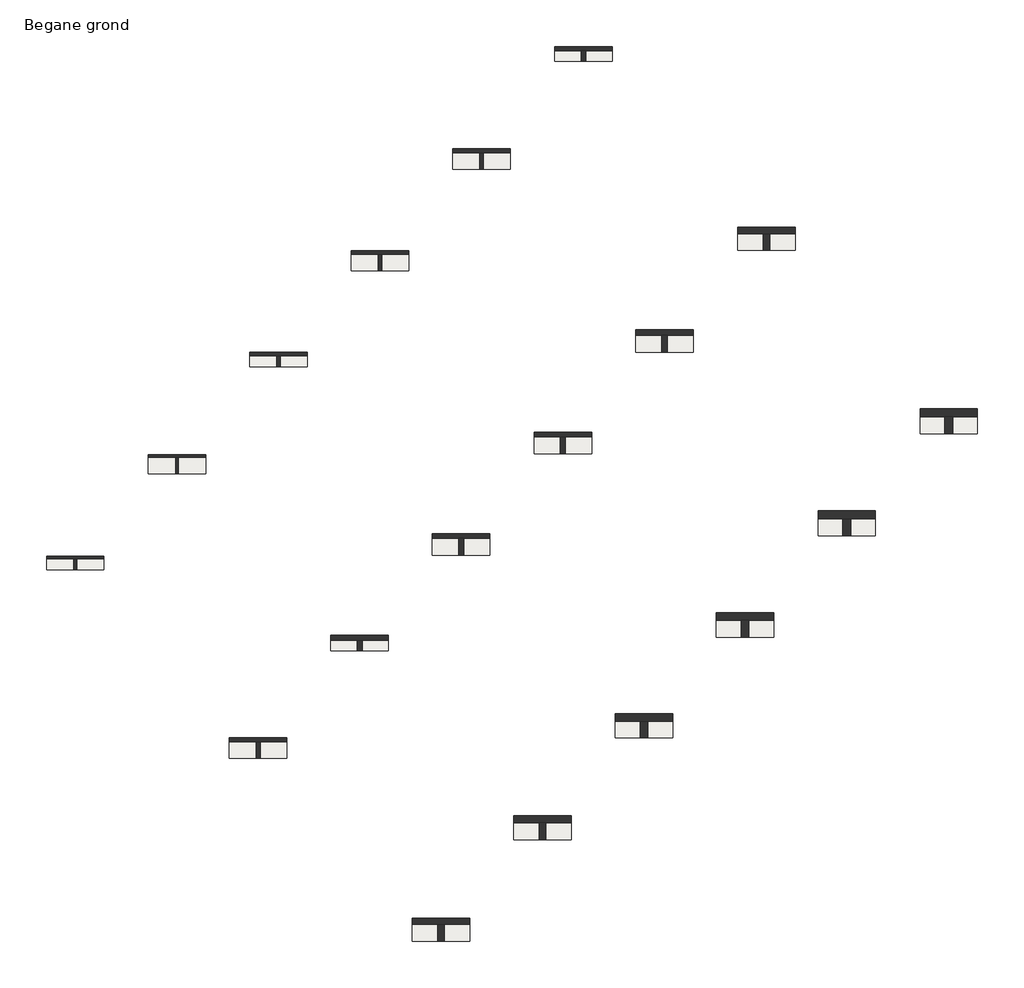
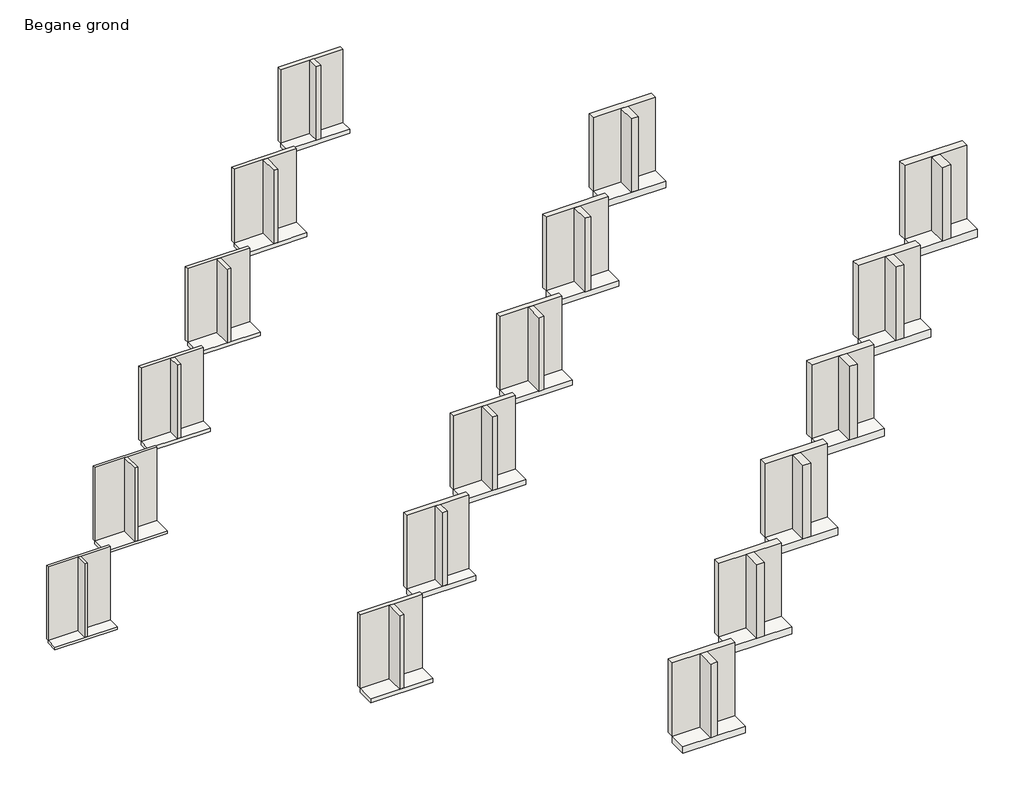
# One storey: 36 walls, 18 slabs.
"""IFC4 building model written with IfcOpenShell, lengths in millimetres."""

from ifc_helpers import new_model, si_unit, frame, origin, origin_with_axes, place, context, project, spatial, polyline, outline, extrude, element, save

model = new_model("IFC4")

# Units and contexts
model_context = context("Model", 3, world=origin())
ifc_project = project(units=[si_unit("LENGTHUNIT", "METRE", prefix="MILLI")], contexts=[model_context])

# Site, building, storey
site = spatial("IfcSite", under=ifc_project)
building = spatial("IfcBuilding", under=site)
storey = spatial("IfcBuildingStorey", under=building, Name="Begane grond", Elevation=0.0)

# Slabs
placement = place(None, origin())
element("IfcSlab", 1, ObjectType="NLRS_23_FL_Naturoll 037_90x380x8200mm", at=placement, inside=storey, context=model_context, shape_type="SweptSolid", body=[
    extrude(outline(polyline([(-8839.8806952, 1271.6712629), (-8839.8806952, 891.6712629), (-10839.8806952, 891.6712629), (-10839.8806952, 1271.6712629), (-8839.8806952, 1271.6712629)])), frame((0.0, 0.0, -90.0), z_axis=(0.0, 0.0, 1.0), x_axis=(1.0, 0.0, 0.0)), (0.0, 0.0, 1.0), 90.0),
])
element("IfcSlab", 2, ObjectType="NLRS_23_FL_Naturoll 037_90x580x8200mm", at=placement, inside=storey, context=model_context, shape_type="SweptSolid", body=[
    extrude(outline(polyline([(-5304.3467893, 4807.2051688), (-5304.3467893, 4227.2051688), (-7304.3467893, 4227.2051688), (-7304.3467893, 4807.2051688), (-5304.3467893, 4807.2051688)])), frame((0.0, 0.0, -90.0), z_axis=(0.0, 0.0, 1.0), x_axis=(1.0, 0.0, 0.0)), (0.0, 0.0, 1.0), 90.0),
])
element("IfcSlab", 3, ObjectType="NLRS_23_FL_Naturoll 037_120x380x6500mm", at=placement, inside=storey, context=model_context, shape_type="SweptSolid", body=[
    extrude(outline(polyline([(-1768.8128833, 8342.7390748), (-1768.8128833, 7962.7390748), (-3768.8128833, 7962.7390748), (-3768.8128833, 8342.7390748), (-1768.8128833, 8342.7390748)])), frame((0.0, 0.0, -120.0), z_axis=(0.0, 0.0, 1.0), x_axis=(1.0, 0.0, 0.0)), (0.0, 0.0, 1.0), 120.0),
])
element("IfcSlab", 4, ObjectType="NLRS_23_FL_Naturoll 037_120x580x6500mm", at=placement, inside=storey, context=model_context, shape_type="SweptSolid", body=[
    extrude(outline(polyline([(1766.7210226, 11878.2729807), (1766.7210226, 11298.2729807), (-233.2789774, 11298.2729807), (-233.2789774, 11878.2729807), (1766.7210226, 11878.2729807)])), frame((0.0, 0.0, -120.0), z_axis=(0.0, 0.0, 1.0), x_axis=(1.0, 0.0, 0.0)), (0.0, 0.0, 1.0), 120.0),
])
element("IfcSlab", 5, ObjectType="NLRS_23_FL_Naturoll 037_135x590x5800mm", at=placement, inside=storey, context=model_context, shape_type="SweptSolid", body=[
    extrude(outline(polyline([(5302.2549285, 15413.8068866), (5302.2549285, 14823.8068866), (3302.2549285, 14823.8068866), (3302.2549285, 15413.8068866), (5302.2549285, 15413.8068866)])), frame((0.0, 0.0, -135.0), z_axis=(0.0, 0.0, 1.0), x_axis=(1.0, 0.0, 0.0)), (0.0, 0.0, 1.0), 135.0),
])
element("IfcSlab", 6, ObjectType="NLRS_23_FL_Naturoll 037_140x580x5600mm", at=placement, inside=storey, context=model_context, shape_type="SweptSolid", body=[
    extrude(outline(polyline([(-2475.9196645, -5092.2897678), (-2475.9196645, -5672.2897678), (-4475.9196645, -5672.2897678), (-4475.9196645, -5092.2897678), (-2475.9196645, -5092.2897678)])), frame((0.0, 0.0, -140.0), z_axis=(0.0, 0.0, 1.0), x_axis=(1.0, 0.0, 0.0)), (0.0, 0.0, 1.0), 140.0),
])
element("IfcSlab", 7, ObjectType="NLRS_23_FL_Naturoll 037_170x380x4600mm", at=placement, inside=storey, context=model_context, shape_type="SweptSolid", body=[
    extrude(outline(polyline([(1059.6142414, -1556.7558618), (1059.6142414, -1936.7558618), (-940.3857586, -1936.7558618), (-940.3857586, -1556.7558618), (1059.6142414, -1556.7558618)])), frame((0.0, 0.0, -170.0), z_axis=(0.0, 0.0, 1.0), x_axis=(1.0, 0.0, 0.0)), (0.0, 0.0, 1.0), 170.0),
])
element("IfcSlab", 8, ObjectType="NLRS_23_FL_Naturoll 037_170x580x4600mm", at=placement, inside=storey, context=model_context, shape_type="SweptSolid", body=[
    extrude(outline(polyline([(4595.1481473, 1978.7780441), (4595.1481473, 1398.7780441), (2595.1481473, 1398.7780441), (2595.1481473, 1978.7780441), (4595.1481473, 1978.7780441)])), frame((0.0, 0.0, -170.0), z_axis=(0.0, 0.0, 1.0), x_axis=(1.0, 0.0, 0.0)), (0.0, 0.0, 1.0), 170.0),
])
element("IfcSlab", 9, ObjectType="NLRS_23_FL_Naturoll 037_170x590x4600mm", at=placement, inside=storey, context=model_context, shape_type="SweptSolid", body=[
    extrude(outline(polyline([(8130.6820533, 5514.31195), (8130.6820533, 4924.31195), (6130.6820533, 4924.31195), (6130.6820533, 5514.31195), (8130.6820533, 5514.31195)])), frame((0.0, 0.0, -170.0), z_axis=(0.0, 0.0, 1.0), x_axis=(1.0, 0.0, 0.0)), (0.0, 0.0, 1.0), 170.0),
])
element("IfcSlab", 10, ObjectType="NLRS_23_FL_Naturoll 037_190x580x4100mm", at=placement, inside=storey, context=model_context, shape_type="SweptSolid", body=[
    extrude(outline(polyline([(11666.2159592, 9049.845856), (11666.2159592, 8469.845856), (9666.2159592, 8469.845856), (9666.2159592, 9049.845856), (11666.2159592, 9049.845856)])), frame((0.0, 0.0, -190.0), z_axis=(0.0, 0.0, 1.0), x_axis=(1.0, 0.0, 0.0)), (0.0, 0.0, 1.0), 190.0),
])
element("IfcSlab", 11, ObjectType="NLRS_23_FL_Naturoll 037_220x580x3500mm", at=placement, inside=storey, context=model_context, shape_type="SweptSolid", body=[
    extrude(outline(polyline([(15219.253694, 12587.1969103), (15219.253694, 12007.1969103), (13219.253694, 12007.1969103), (13219.253694, 12587.1969103), (15219.253694, 12587.1969103)])), frame((0.0, 0.0, -220.0), z_axis=(0.0, 0.0, 1.0), x_axis=(1.0, 0.0, 0.0)), (0.0, 0.0, 1.0), 220.0),
])
element("IfcSlab", 12, ObjectType="NLRS_23_FL_Naturoll 037_220x590x3500mm", at=placement, inside=storey, context=model_context, shape_type="SweptSolid", body=[
    extrude(outline(polyline([(3887.7504273, -11456.5417373), (3887.7504273, -12046.5417373), (1887.7504273, -12046.5417373), (1887.7504273, -11456.5417373), (3887.7504273, -11456.5417373)])), frame((0.0, 0.0, -220.0), z_axis=(0.0, 0.0, 1.0), x_axis=(1.0, 0.0, 0.0)), (0.0, 0.0, 1.0), 220.0),
])
element("IfcSlab", 13, ObjectType="NLRS_23_FL_Naturoll 037_240x590x3250mm", at=placement, inside=storey, context=model_context, shape_type="SweptSolid", body=[
    extrude(outline(polyline([(7423.2843332, -7921.0078314), (7423.2843332, -8511.0078314), (5423.2843332, -8511.0078314), (5423.2843332, -7921.0078314), (7423.2843332, -7921.0078314)])), frame((0.0, 0.0, -240.0), z_axis=(0.0, 0.0, 1.0), x_axis=(1.0, 0.0, 0.0)), (0.0, 0.0, 1.0), 240.0),
])
element("IfcSlab", 14, ObjectType="NLRS_23_FL_Naturoll 037_260x580x3000mm", at=placement, inside=storey, context=model_context, shape_type="SweptSolid", body=[
    extrude(outline(polyline([(10958.8182392, -4385.4739254), (10958.8182392, -4965.4739254), (8958.8182392, -4965.4739254), (8958.8182392, -4385.4739254), (10958.8182392, -4385.4739254)])), frame((0.0, 0.0, -260.0), z_axis=(0.0, 0.0, 1.0), x_axis=(1.0, 0.0, 0.0)), (0.0, 0.0, 1.0), 260.0),
])
element("IfcSlab", 15, ObjectType="NLRS_23_FL_Naturoll 037_270x590x3000mm", at=placement, inside=storey, context=model_context, shape_type="SweptSolid", body=[
    extrude(outline(polyline([(21565.419957, 6221.1277924), (21565.419957, 5631.1277924), (19565.419957, 5631.1277924), (19565.419957, 6221.1277924), (21565.419957, 6221.1277924)])), frame((0.0, 0.0, -270.0), z_axis=(0.0, 0.0, 1.0), x_axis=(1.0, 0.0, 0.0)), (0.0, 0.0, 1.0), 270.0),
])
element("IfcSlab", 16, ObjectType="NLRS_23_FL_Naturoll 037_140x380x5600mm", at=placement, inside=storey, context=model_context, shape_type="SweptSolid", body=[
    extrude(outline(polyline([(8851.9309701, 18963.4829282), (8851.9309701, 18583.4829282), (6851.9309701, 18583.4829282), (6851.9309701, 18963.4829282), (8851.9309701, 18963.4829282)])), frame((0.0, 0.0, -140.0), z_axis=(0.0, 0.0, 1.0), x_axis=(1.0, 0.0, 0.0)), (0.0, 0.0, 1.0), 140.0),
])
element("IfcSlab", 17, ObjectType="NLRS_23_FL_Naturoll 037_265x590x3000mm", at=placement, inside=storey, context=model_context, shape_type="SweptSolid", body=[
    extrude(outline(polyline([(18015.7439154, 2671.4517508), (18015.7439154, 2081.4517508), (16015.7439154, 2081.4517508), (16015.7439154, 2671.4517508), (18015.7439154, 2671.4517508)])), frame((0.0, 0.0, -265.0), z_axis=(0.0, 0.0, 1.0), x_axis=(1.0, 0.0, 0.0)), (0.0, 0.0, 1.0), 265.0),
])
element("IfcSlab", 18, ObjectType="NLRS_23_FL_Naturoll 037_260x590x3000mm", at=placement, inside=storey, context=model_context, shape_type="SweptSolid", body=[
    extrude(outline(polyline([(14480.2100095, -864.0821551), (14480.2100095, -1454.0821551), (12480.2100095, -1454.0821551), (12480.2100095, -864.0821551), (14480.2100095, -864.0821551)])), frame((0.0, 0.0, -260.0), z_axis=(0.0, 0.0, 1.0), x_axis=(1.0, 0.0, 0.0)), (0.0, 0.0, 1.0), 260.0),
])

# Walls
element("IfcWall", 19, ObjectType="NLRS_21_WA_Naturoll 037_90x380x8200mm", at=placement, inside=storey, context=model_context, shape_type="SweptSolid", body=[
    extrude(outline(polyline([(-8839.8806952, 1271.6712629), (-10839.8806952, 1271.6712629), (-10839.8806952, 1361.6712629), (-8839.8806952, 1361.6712629), (-8839.8806952, 1271.6712629)])), origin_with_axes(), (0.0, 0.0, 1.0), 2500.0),
])
element("IfcWall", 20, ObjectType="NLRS_21_WA_Naturoll 037_90x380x8200mm", at=placement, inside=storey, context=model_context, shape_type="SweptSolid", body=[
    extrude(outline(polyline([(-9884.8806952, 891.6712629), (-9884.8806952, 1271.6712629), (-9794.8806952, 1271.6712629), (-9794.8806952, 891.6712629), (-9884.8806952, 891.6712629)])), origin_with_axes(), (0.0, 0.0, 1.0), 2500.0),
])
element("IfcWall", 21, ObjectType="NLRS_21_WA_Naturoll 037_90x580x8200mm", at=placement, inside=storey, context=model_context, shape_type="SweptSolid", body=[
    extrude(outline(polyline([(-5304.3467893, 4807.2051688), (-7304.3467893, 4807.2051688), (-7304.3467893, 4897.2051688), (-5304.3467893, 4897.2051688), (-5304.3467893, 4807.2051688)])), origin_with_axes(), (0.0, 0.0, 1.0), 2500.0),
])
element("IfcWall", 22, ObjectType="NLRS_21_WA_Naturoll 037_90x580x8200mm", at=placement, inside=storey, context=model_context, shape_type="SweptSolid", body=[
    extrude(outline(polyline([(-6349.3467893, 4227.2051688), (-6349.3467893, 4807.2051688), (-6259.3467893, 4807.2051688), (-6259.3467893, 4227.2051688), (-6349.3467893, 4227.2051688)])), origin_with_axes(), (0.0, 0.0, 1.0), 2500.0),
])
element("IfcWall", 23, ObjectType="NLRS_21_WA_Naturoll 037_120x380x6500mm", at=placement, inside=storey, context=model_context, shape_type="SweptSolid", body=[
    extrude(outline(polyline([(-1768.8128833, 8342.7390748), (-3768.8128833, 8342.7390748), (-3768.8128833, 8462.7390748), (-1768.8128833, 8462.7390748), (-1768.8128833, 8342.7390748)])), origin_with_axes(), (0.0, 0.0, 1.0), 2500.0),
])
element("IfcWall", 24, ObjectType="NLRS_21_WA_Naturoll 037_120x380x6500mm", at=placement, inside=storey, context=model_context, shape_type="SweptSolid", body=[
    extrude(outline(polyline([(-2828.8128833, 7962.7390748), (-2828.8128833, 8342.7390748), (-2708.8128833, 8342.7390748), (-2708.8128833, 7962.7390748), (-2828.8128833, 7962.7390748)])), origin_with_axes(), (0.0, 0.0, 1.0), 2500.0),
])
element("IfcWall", 25, ObjectType="NLRS_21_WA_Naturoll 037_120x580x6500mm", at=placement, inside=storey, context=model_context, shape_type="SweptSolid", body=[
    extrude(outline(polyline([(1766.7210226, 11878.2729807), (-233.2789774, 11878.2729807), (-233.2789774, 11998.2729807), (1766.7210226, 11998.2729807), (1766.7210226, 11878.2729807)])), origin_with_axes(), (0.0, 0.0, 1.0), 2500.0),
])
element("IfcWall", 26, ObjectType="NLRS_21_WA_Naturoll 037_120x580x6500mm", at=placement, inside=storey, context=model_context, shape_type="SweptSolid", body=[
    extrude(outline(polyline([(706.7210226, 11298.2729807), (706.7210226, 11878.2729807), (826.7210226, 11878.2729807), (826.7210226, 11298.2729807), (706.7210226, 11298.2729807)])), origin_with_axes(), (0.0, 0.0, 1.0), 2500.0),
])
element("IfcWall", 27, ObjectType="NLRS_21_WA_Naturoll 037_135x590x5800mm", at=placement, inside=storey, context=model_context, shape_type="SweptSolid", body=[
    extrude(outline(polyline([(5302.2549285, 15413.8068866), (3302.2549285, 15413.8068866), (3302.2549285, 15548.8068866), (5302.2549285, 15548.8068866), (5302.2549285, 15413.8068866)])), origin_with_axes(), (0.0, 0.0, 1.0), 2500.0),
])
element("IfcWall", 28, ObjectType="NLRS_21_WA_Naturoll 037_135x590x5800mm", at=placement, inside=storey, context=model_context, shape_type="SweptSolid", body=[
    extrude(outline(polyline([(4234.7549285, 14823.8068866), (4234.7549285, 15413.8068866), (4369.7549285, 15413.8068866), (4369.7549285, 14823.8068866), (4234.7549285, 14823.8068866)])), origin_with_axes(), (0.0, 0.0, 1.0), 2500.0),
])
element("IfcWall", 29, ObjectType="NLRS_21_WA_Naturoll 037_140x580x5600mm", at=placement, inside=storey, context=model_context, shape_type="SweptSolid", body=[
    extrude(outline(polyline([(-2475.9196645, -5092.2897678), (-4475.9196645, -5092.2897678), (-4475.9196645, -4952.2897678), (-2475.9196645, -4952.2897678), (-2475.9196645, -5092.2897678)])), origin_with_axes(), (0.0, 0.0, 1.0), 2500.0),
])
element("IfcWall", 30, ObjectType="NLRS_21_WA_Naturoll 037_140x580x5600mm", at=placement, inside=storey, context=model_context, shape_type="SweptSolid", body=[
    extrude(outline(polyline([(-3545.9196645, -5672.2897678), (-3545.9196645, -5092.2897678), (-3405.9196645, -5092.2897678), (-3405.9196645, -5672.2897678), (-3545.9196645, -5672.2897678)])), origin_with_axes(), (0.0, 0.0, 1.0), 2500.0),
])
element("IfcWall", 31, ObjectType="NLRS_21_WA_Naturoll 037_170x380x4600mm", at=placement, inside=storey, context=model_context, shape_type="SweptSolid", body=[
    extrude(outline(polyline([(1059.6142414, -1556.7558618), (-940.3857586, -1556.7558618), (-940.3857586, -1386.7558618), (1059.6142414, -1386.7558618), (1059.6142414, -1556.7558618)])), origin_with_axes(), (0.0, 0.0, 1.0), 2500.0),
])
element("IfcWall", 32, ObjectType="NLRS_21_WA_Naturoll 037_170x380x4600mm", at=placement, inside=storey, context=model_context, shape_type="SweptSolid", body=[
    extrude(outline(polyline([(-25.3857586, -1936.7558618), (-25.3857586, -1556.7558618), (144.6142414, -1556.7558618), (144.6142414, -1936.7558618), (-25.3857586, -1936.7558618)])), origin_with_axes(), (0.0, 0.0, 1.0), 2500.0),
])
element("IfcWall", 33, ObjectType="NLRS_21_WA_Naturoll 037_170x580x4600mm", at=placement, inside=storey, context=model_context, shape_type="SweptSolid", body=[
    extrude(outline(polyline([(4595.1481473, 1978.7780441), (2595.1481473, 1978.7780441), (2595.1481473, 2148.7780441), (4595.1481473, 2148.7780441), (4595.1481473, 1978.7780441)])), origin_with_axes(), (0.0, 0.0, 1.0), 2500.0),
])
element("IfcWall", 34, ObjectType="NLRS_21_WA_Naturoll 037_170x580x4600mm", at=placement, inside=storey, context=model_context, shape_type="SweptSolid", body=[
    extrude(outline(polyline([(3510.1481473, 1398.7780441), (3510.1481473, 1978.7780441), (3680.1481473, 1978.7780441), (3680.1481473, 1398.7780441), (3510.1481473, 1398.7780441)])), origin_with_axes(), (0.0, 0.0, 1.0), 2500.0),
])
element("IfcWall", 35, ObjectType="NLRS_21_WA_Naturoll 037_170x590x4600mm", at=placement, inside=storey, context=model_context, shape_type="SweptSolid", body=[
    extrude(outline(polyline([(8130.6820533, 5514.31195), (6130.6820533, 5514.31195), (6130.6820533, 5684.31195), (8130.6820533, 5684.31195), (8130.6820533, 5514.31195)])), origin_with_axes(), (0.0, 0.0, 1.0), 2500.0),
])
element("IfcWall", 36, ObjectType="NLRS_21_WA_Naturoll 037_170x590x4600mm", at=placement, inside=storey, context=model_context, shape_type="SweptSolid", body=[
    extrude(outline(polyline([(7045.6820533, 4924.31195), (7045.6820533, 5514.31195), (7215.6820533, 5514.31195), (7215.6820533, 4924.31195), (7045.6820533, 4924.31195)])), origin_with_axes(), (0.0, 0.0, 1.0), 2500.0),
])
element("IfcWall", 37, ObjectType="NLRS_21_WA_Naturoll 037_190x580x4100mm", at=placement, inside=storey, context=model_context, shape_type="SweptSolid", body=[
    extrude(outline(polyline([(11666.2159592, 9049.845856), (9666.2159592, 9049.845856), (9666.2159592, 9239.845856), (11666.2159592, 9239.845856), (11666.2159592, 9049.845856)])), origin_with_axes(), (0.0, 0.0, 1.0), 2500.0),
])
element("IfcWall", 38, ObjectType="NLRS_21_WA_Naturoll 037_190x580x4100mm", at=placement, inside=storey, context=model_context, shape_type="SweptSolid", body=[
    extrude(outline(polyline([(10571.2159592, 8469.845856), (10571.2159592, 9049.845856), (10761.2159592, 9049.845856), (10761.2159592, 8469.845856), (10571.2159592, 8469.845856)])), origin_with_axes(), (0.0, 0.0, 1.0), 2500.0),
])
element("IfcWall", 39, ObjectType="NLRS_21_WA_Naturoll 037_220x580x3500mm", at=placement, inside=storey, context=model_context, shape_type="SweptSolid", body=[
    extrude(outline(polyline([(15219.253694, 12587.1969103), (13219.253694, 12587.1969103), (13219.253694, 12807.1969103), (15219.253694, 12807.1969103), (15219.253694, 12587.1969103)])), origin_with_axes(), (0.0, 0.0, 1.0), 2500.0),
])
element("IfcWall", 40, ObjectType="NLRS_21_WA_Naturoll 037_220x580x3500mm", at=placement, inside=storey, context=model_context, shape_type="SweptSolid", body=[
    extrude(outline(polyline([(14109.253694, 12007.1969103), (14109.253694, 12587.1969103), (14329.253694, 12587.1969103), (14329.253694, 12007.1969103), (14109.253694, 12007.1969103)])), origin_with_axes(), (0.0, 0.0, 1.0), 2500.0),
])
element("IfcWall", 41, ObjectType="NLRS_21_WA_Naturoll 037_220x590x3500mm", at=placement, inside=storey, context=model_context, shape_type="SweptSolid", body=[
    extrude(outline(polyline([(3887.7504273, -11456.5417373), (1887.7504273, -11456.5417373), (1887.7504273, -11236.5417373), (3887.7504273, -11236.5417373), (3887.7504273, -11456.5417373)])), origin_with_axes(), (0.0, 0.0, 1.0), 2500.0),
])
element("IfcWall", 42, ObjectType="NLRS_21_WA_Naturoll 037_220x590x3500mm", at=placement, inside=storey, context=model_context, shape_type="SweptSolid", body=[
    extrude(outline(polyline([(2777.7504273, -12046.5417373), (2777.7504273, -11456.5417373), (2997.7504273, -11456.5417373), (2997.7504273, -12046.5417373), (2777.7504273, -12046.5417373)])), origin_with_axes(), (0.0, 0.0, 1.0), 2500.0),
])
element("IfcWall", 43, ObjectType="NLRS_21_WA_Naturoll 037_240x590x3250mm", at=placement, inside=storey, context=model_context, shape_type="SweptSolid", body=[
    extrude(outline(polyline([(7423.2843332, -7921.0078314), (5423.2843332, -7921.0078314), (5423.2843332, -7681.0078314), (7423.2843332, -7681.0078314), (7423.2843332, -7921.0078314)])), origin_with_axes(), (0.0, 0.0, 1.0), 2500.0),
])
element("IfcWall", 44, ObjectType="NLRS_21_WA_Naturoll 037_240x590x3250mm", at=placement, inside=storey, context=model_context, shape_type="SweptSolid", body=[
    extrude(outline(polyline([(6303.2843332, -8511.0078314), (6303.2843332, -7921.0078314), (6543.2843332, -7921.0078314), (6543.2843332, -8511.0078314), (6303.2843332, -8511.0078314)])), origin_with_axes(), (0.0, 0.0, 1.0), 2500.0),
])
element("IfcWall", 45, ObjectType="NLRS_21_WA_Naturoll 037_260x580x3000mm", at=placement, inside=storey, context=model_context, shape_type="SweptSolid", body=[
    extrude(outline(polyline([(10958.8182392, -4385.4739254), (8958.8182392, -4385.4739254), (8958.8182392, -4125.4739254), (10958.8182392, -4125.4739254), (10958.8182392, -4385.4739254)])), origin_with_axes(), (0.0, 0.0, 1.0), 2500.0),
])
element("IfcWall", 46, ObjectType="NLRS_21_WA_Naturoll 037_260x580x3000mm", at=placement, inside=storey, context=model_context, shape_type="SweptSolid", body=[
    extrude(outline(polyline([(9828.8182392, -4965.4739254), (9828.8182392, -4385.4739254), (10088.8182392, -4385.4739254), (10088.8182392, -4965.4739254), (9828.8182392, -4965.4739254)])), origin_with_axes(), (0.0, 0.0, 1.0), 2500.0),
])
element("IfcWall", 47, ObjectType="NLRS_21_WA_Naturoll 037_270x590x3000mm", at=placement, inside=storey, context=model_context, shape_type="SweptSolid", body=[
    extrude(outline(polyline([(21565.419957, 6221.1277924), (19565.419957, 6221.1277924), (19565.419957, 6491.1277924), (21565.419957, 6491.1277924), (21565.419957, 6221.1277924)])), origin_with_axes(), (0.0, 0.0, 1.0), 2500.0),
])
element("IfcWall", 48, ObjectType="NLRS_21_WA_Naturoll 037_270x590x3000mm", at=placement, inside=storey, context=model_context, shape_type="SweptSolid", body=[
    extrude(outline(polyline([(20430.419957, 5631.1277924), (20430.419957, 6221.1277924), (20700.419957, 6221.1277924), (20700.419957, 5631.1277924), (20430.419957, 5631.1277924)])), origin_with_axes(), (0.0, 0.0, 1.0), 2500.0),
])
element("IfcWall", 49, ObjectType="NLRS_21_WA_Naturoll 037_140x380x5600mm", at=placement, inside=storey, context=model_context, shape_type="SweptSolid", body=[
    extrude(outline(polyline([(8851.9309701, 18963.4829282), (6851.9309701, 18963.4829282), (6851.9309701, 19103.4829282), (8851.9309701, 19103.4829282), (8851.9309701, 18963.4829282)])), origin_with_axes(), (0.0, 0.0, 1.0), 2500.0),
])
element("IfcWall", 50, ObjectType="NLRS_21_WA_Naturoll 037_140x380x5600mm", at=placement, inside=storey, context=model_context, shape_type="SweptSolid", body=[
    extrude(outline(polyline([(7781.9309701, 18583.4829282), (7781.9309701, 18963.4829282), (7921.9309701, 18963.4829282), (7921.9309701, 18583.4829282), (7781.9309701, 18583.4829282)])), origin_with_axes(), (0.0, 0.0, 1.0), 2500.0),
])
element("IfcWall", 51, ObjectType="NLRS_21_WA_Naturoll 037_265x590x3000mm", at=placement, inside=storey, context=model_context, shape_type="SweptSolid", body=[
    extrude(outline(polyline([(18015.7439154, 2671.4517508), (16015.7439154, 2671.4517508), (16015.7439154, 2936.4517508), (18015.7439154, 2936.4517508), (18015.7439154, 2671.4517508)])), origin_with_axes(), (0.0, 0.0, 1.0), 2500.0),
])
element("IfcWall", 52, ObjectType="NLRS_21_WA_Naturoll 037_265x590x3000mm", at=placement, inside=storey, context=model_context, shape_type="SweptSolid", body=[
    extrude(outline(polyline([(16883.2439154, 2081.4517508), (16883.2439154, 2671.4517508), (17148.2439154, 2671.4517508), (17148.2439154, 2081.4517508), (16883.2439154, 2081.4517508)])), origin_with_axes(), (0.0, 0.0, 1.0), 2500.0),
])
element("IfcWall", 53, ObjectType="NLRS_21_WA_Naturoll 037_260x590x3000mm", at=placement, inside=storey, context=model_context, shape_type="SweptSolid", body=[
    extrude(outline(polyline([(14480.2100095, -864.0821551), (12480.2100095, -864.0821551), (12480.2100095, -604.0821551), (14480.2100095, -604.0821551), (14480.2100095, -864.0821551)])), origin_with_axes(), (0.0, 0.0, 1.0), 2500.0),
])
element("IfcWall", 54, ObjectType="NLRS_21_WA_Naturoll 037_260x590x3000mm", at=placement, inside=storey, context=model_context, shape_type="SweptSolid", body=[
    extrude(outline(polyline([(13350.2100095, -1454.0821551), (13350.2100095, -864.0821551), (13610.2100095, -864.0821551), (13610.2100095, -1454.0821551), (13350.2100095, -1454.0821551)])), origin_with_axes(), (0.0, 0.0, 1.0), 2500.0),
])

save(model, "model.ifc")
